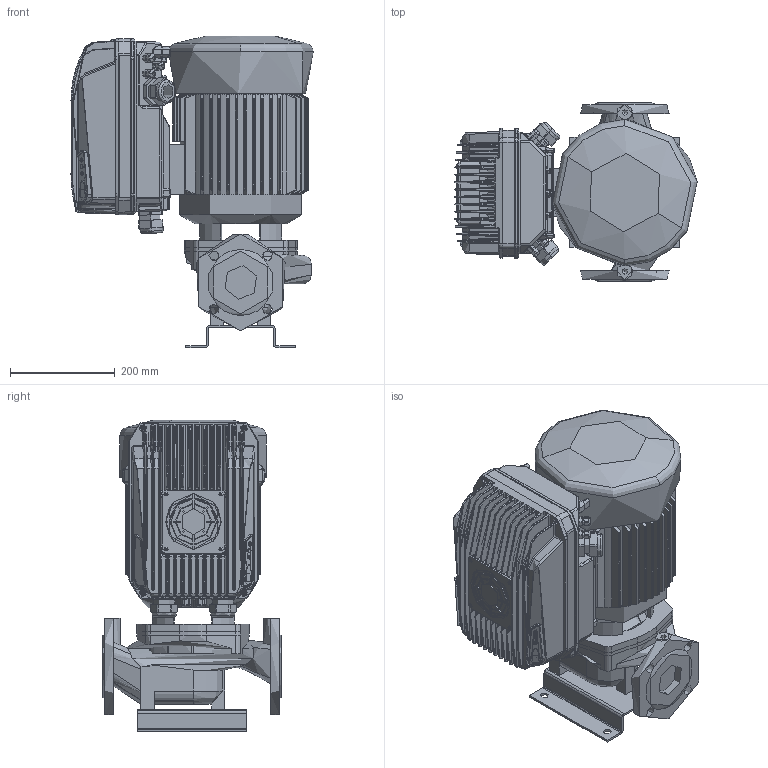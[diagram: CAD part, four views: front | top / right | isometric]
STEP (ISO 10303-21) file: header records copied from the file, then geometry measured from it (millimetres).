
FILE_DESCRIPTION(('STEP AP214'),'1');
FILE_NAME('export.stp','2022-09-07T06:35:42',(' '),(' '),'Spatial InterOp 3D',' ',' ');
FILE_SCHEMA(('AUTOMOTIVE_DESIGN { 1 0 10303 214 1 1 1 1 }'));
Length unit declared in the file: millimetre
Products named in the file (12): W_L65A4770_withou; V_TLL65AB80A1102; V_PPL65AB; V_JALKA35973; W_L65B2MDKP132; V_MOKN132; RU_OKN_132; TSUOJA_OKN_132_133; KYTKOTELO_OKN_100_133; V_Mkp-132_F19; V_EKF19OKN132; Mida_414-418
Assembly tree (11 placements, depth 4):
  W_L65B2MDKP132
    W_L65A4770_withou
      V_TLL65AB80A1102
      V_PPL65AB
      V_JALKA35973
    V_Mkp-132_F19
      V_MOKN132
        RU_OKN_132
        TSUOJA_OKN_132_133
        KYTKOTELO_OKN_100_133
      V_EKF19OKN132
    Mida_414-418
Bounding box: 463.09 x 340 x 595.5 mm (x, y, z)
Topology: 55 solids, 60 shells, 6095 faces, 15351 edges, 9299 vertices
Faces by surface type: cylinder 2212, plane 1944, bspline 1211, cone 428, torus 255, sphere 45
Entity records: 501663 total; most frequent: CARTESIAN_POINT 313521, ORIENTED_EDGE 30152, DIRECTION 23320, EDGE_CURVE 15076, VERTEX_POINT 9296, AXIS2_PLACEMENT_3D 8500, STYLED_ITEM 7553, PRESENTATION_STYLE_ASSIGNMENT 7553
